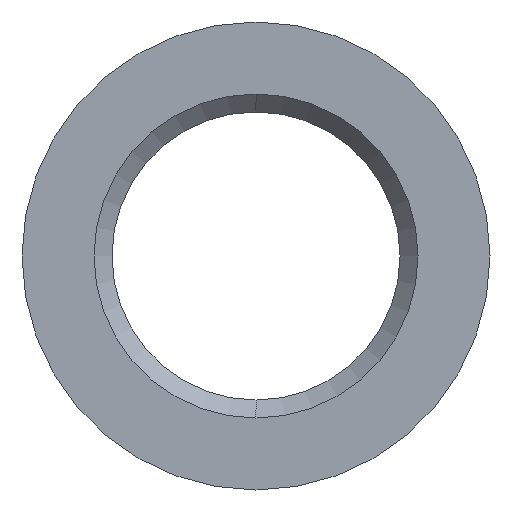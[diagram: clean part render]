
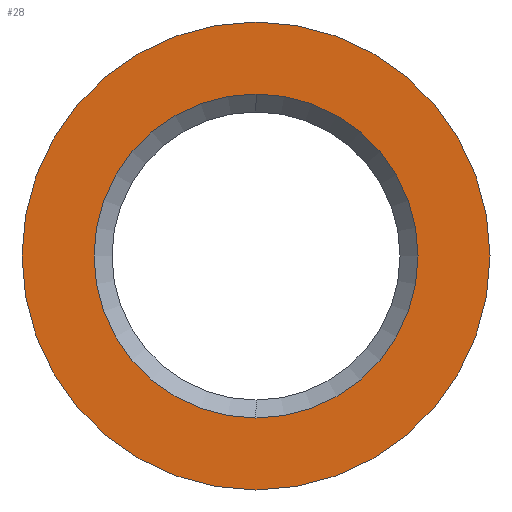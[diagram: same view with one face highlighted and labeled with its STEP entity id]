
A CAD part, left-side view. The second image highlights one B-rep face of the part: STEP entity #28.
In plain terms, the highlighted planar face has unit normal (-1, 0, 0).
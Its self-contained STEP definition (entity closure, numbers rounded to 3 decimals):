
#1 = ORIENTED_EDGE ( 'NONE', *, *, #6, .T. ) ;
#3 = ORIENTED_EDGE ( 'NONE', *, *, #215, .T. ) ;
#6 = EDGE_CURVE ( 'NONE', #218, #214, #585, .T. ) ;
#23 = EDGE_LOOP ( 'NONE', ( #3, #1 ) ) ;
#25 = EDGE_CURVE ( 'NONE', #243, #235, #413, .T. ) ;
#28 = ADVANCED_FACE ( 'NONE', ( #406, #401 ), #400, .F. ) ;
#116 = EDGE_LOOP ( 'NONE', ( #117, #118 ) ) ;
#117 = ORIENTED_EDGE ( 'NONE', *, *, #25, .F. ) ;
#118 = ORIENTED_EDGE ( 'NONE', *, *, #242, .F. ) ;
#214 = VERTEX_POINT ( 'NONE', #1035 ) ;
#215 = EDGE_CURVE ( 'NONE', #214, #218, #1034, .T. ) ;
#218 = VERTEX_POINT ( 'NONE', #1025 ) ;
#235 = VERTEX_POINT ( 'NONE', #1003 ) ;
#242 = EDGE_CURVE ( 'NONE', #235, #243, #987, .T. ) ;
#243 = VERTEX_POINT ( 'NONE', #854 ) ;
#395 = DIRECTION ( 'NONE',  ( 0., 0., -1. ) ) ;
#396 = DIRECTION ( 'NONE',  ( 1., 0., 0. ) ) ;
#397 = AXIS2_PLACEMENT_3D ( 'NONE', #399, #396, #395 ) ;
#399 = CARTESIAN_POINT ( 'NONE',  ( 0., 0., 0. ) ) ;
#400 = PLANE ( 'NONE',  #397 ) ;
#401 = FACE_OUTER_BOUND ( 'NONE', #116, .T. ) ;
#406 = FACE_BOUND ( 'NONE', #23, .T. ) ;
#409 = DIRECTION ( 'NONE',  ( 0., 0., -1. ) ) ;
#410 = DIRECTION ( 'NONE',  ( 1., 0., 0. ) ) ;
#411 = CARTESIAN_POINT ( 'NONE',  ( 0., 0., 0. ) ) ;
#412 = AXIS2_PLACEMENT_3D ( 'NONE', #411, #410, #409 ) ;
#413 = CIRCLE ( 'NONE', #412, 3.9 ) ;
#581 = DIRECTION ( 'NONE',  ( 0., 0., -1. ) ) ;
#582 = DIRECTION ( 'NONE',  ( 1., 0., 0. ) ) ;
#583 = CARTESIAN_POINT ( 'NONE',  ( 0., 0., 0. ) ) ;
#584 = AXIS2_PLACEMENT_3D ( 'NONE', #583, #582, #581 ) ;
#585 = CIRCLE ( 'NONE', #584, 2.7 ) ;
#854 = CARTESIAN_POINT ( 'NONE',  ( 0., 0., 3.9 ) ) ;
#855 = DIRECTION ( 'NONE',  ( 0., 0., -1. ) ) ;
#856 = DIRECTION ( 'NONE',  ( 1., 0., 0. ) ) ;
#857 = CARTESIAN_POINT ( 'NONE',  ( 0., 0., 0. ) ) ;
#858 = AXIS2_PLACEMENT_3D ( 'NONE', #857, #856, #855 ) ;
#987 = CIRCLE ( 'NONE', #858, 3.9 ) ;
#1003 = CARTESIAN_POINT ( 'NONE',  ( 0., 0., -3.9 ) ) ;
#1025 = CARTESIAN_POINT ( 'NONE',  ( 0., 0., -2.7 ) ) ;
#1030 = DIRECTION ( 'NONE',  ( 0., 0., -1. ) ) ;
#1031 = DIRECTION ( 'NONE',  ( 1., 0., 0. ) ) ;
#1032 = CARTESIAN_POINT ( 'NONE',  ( 0., 0., 0. ) ) ;
#1033 = AXIS2_PLACEMENT_3D ( 'NONE', #1032, #1031, #1030 ) ;
#1034 = CIRCLE ( 'NONE', #1033, 2.7 ) ;
#1035 = CARTESIAN_POINT ( 'NONE',  ( 0., 0., 2.7 ) ) ;
